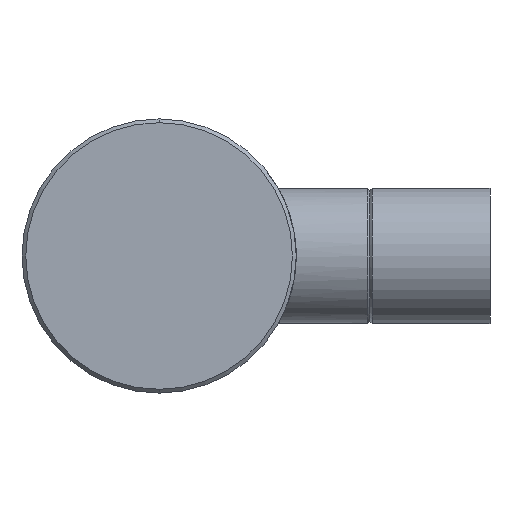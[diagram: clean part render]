
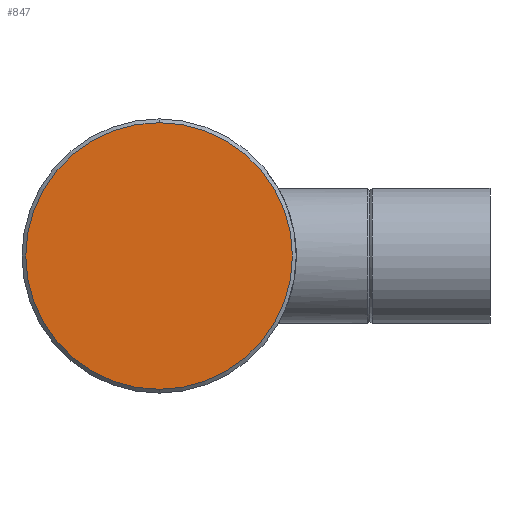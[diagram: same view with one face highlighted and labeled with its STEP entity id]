
A CAD part, left-side view. The second image highlights one B-rep face of the part: STEP entity #847.
In plain terms, the highlighted planar face has unit normal (-1, 0, 0).
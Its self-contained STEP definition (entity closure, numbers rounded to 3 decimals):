
#42 = VERTEX_POINT ( 'NONE', #798 ) ;
#85 = AXIS2_PLACEMENT_3D ( 'NONE', #1448, #708, #1580 ) ;
#134 = EDGE_CURVE ( 'NONE', #42, #1215, #642, .T. ) ;
#143 = AXIS2_PLACEMENT_3D ( 'NONE', #765, #1387, #646 ) ;
#157 = FACE_OUTER_BOUND ( 'NONE', #416, .T. ) ;
#228 = AXIS2_PLACEMENT_3D ( 'NONE', #1400, #1529, #782 ) ;
#240 = ORIENTED_EDGE ( 'NONE', *, *, #134, .T. ) ;
#416 = EDGE_LOOP ( 'NONE', ( #240, #920 ) ) ;
#475 = CIRCLE ( 'NONE', #228, 17.75 ) ;
#502 = PLANE ( 'NONE',  #143 ) ;
#642 = CIRCLE ( 'NONE', #85, 17.75 ) ;
#646 = DIRECTION ( 'NONE',  ( 0., 0., -1. ) ) ;
#708 = DIRECTION ( 'NONE',  ( -1., 0., 0. ) ) ;
#765 = CARTESIAN_POINT ( 'NONE',  ( 0., 0., 0. ) ) ;
#768 = CARTESIAN_POINT ( 'NONE',  ( 0., 0., 17.75 ) ) ;
#782 = DIRECTION ( 'NONE',  ( 0., 0., 1. ) ) ;
#798 = CARTESIAN_POINT ( 'NONE',  ( 0., 0., -17.75 ) ) ;
#847 = ADVANCED_FACE ( 'NONE', ( #157 ), #502, .F. ) ;
#913 = EDGE_CURVE ( 'NONE', #1215, #42, #475, .T. ) ;
#920 = ORIENTED_EDGE ( 'NONE', *, *, #913, .T. ) ;
#1215 = VERTEX_POINT ( 'NONE', #768 ) ;
#1387 = DIRECTION ( 'NONE',  ( 1., 0., 0. ) ) ;
#1400 = CARTESIAN_POINT ( 'NONE',  ( 0., 0., 0. ) ) ;
#1448 = CARTESIAN_POINT ( 'NONE',  ( 0., 0., 0. ) ) ;
#1529 = DIRECTION ( 'NONE',  ( -1., 0., 0. ) ) ;
#1580 = DIRECTION ( 'NONE',  ( 0., 0., 1. ) ) ;
